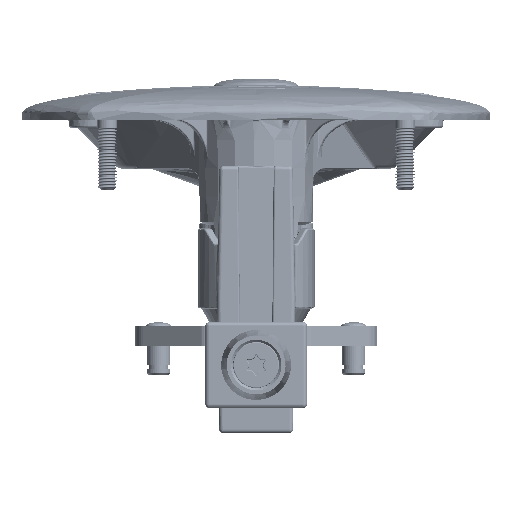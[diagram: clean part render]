
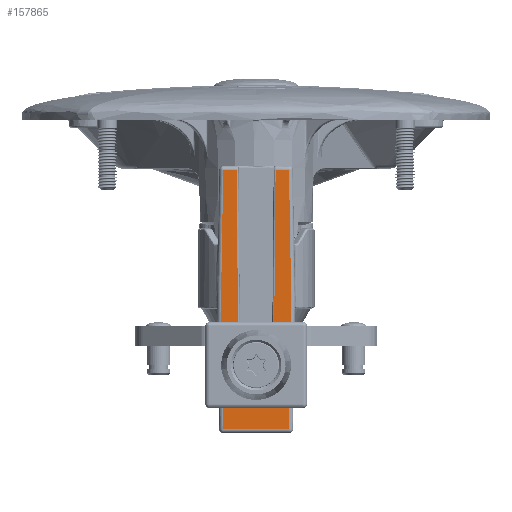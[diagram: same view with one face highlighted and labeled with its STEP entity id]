
A CAD part, left-side view. The second image highlights one B-rep face of the part: STEP entity #157865.
In plain terms, the highlighted planar face has unit normal (-1, 0, 0).
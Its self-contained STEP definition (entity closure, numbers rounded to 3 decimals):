
#16233 = EDGE_LOOP ( 'NONE', ( #221587, #221589, #221591, #221593, #221596, #221598, #221600, #221602, #221604, #221607 ) ) ;
#70361 = EDGE_CURVE ( 'NONE', #285992, #286000, #222878, .T. ) ;
#70405 = EDGE_CURVE ( 'NONE', #286001, #286002, #222885, .T. ) ;
#70408 = EDGE_CURVE ( 'NONE', #286002, #286003, #222890, .T. ) ;
#70412 = EDGE_CURVE ( 'NONE', #285990, #285992, #222895, .T. ) ;
#70416 = EDGE_CURVE ( 'NONE', #285995, #285990, #222898, .T. ) ;
#70419 = EDGE_CURVE ( 'NONE', #286000, #286001, #222901, .T. ) ;
#70424 = EDGE_CURVE ( 'NONE', #286003, #286005, #222904, .T. ) ;
#70427 = EDGE_CURVE ( 'NONE', #286005, #286006, #222907, .T. ) ;
#70431 = EDGE_CURVE ( 'NONE', #286006, #286010, #222910, .T. ) ;
#70435 = EDGE_CURVE ( 'NONE', #286010, #285995, #222914, .T. ) ;
#120228 = AXIS2_PLACEMENT_3D ( 'NONE', #147469, #147496, #147497 ) ;
#145565 = FACE_OUTER_BOUND ( 'NONE', #16233, .T. ) ;
#147469 = CARTESIAN_POINT ( 'NONE',  ( -24., 10., -5.899 ) ) ;
#147486 = PLANE ( 'NONE',  #120228 ) ;
#147496 = DIRECTION ( 'NONE',  ( 1., 0., 0. ) ) ;
#147497 = DIRECTION ( 'NONE',  ( 0., 1., 0. ) ) ;
#157865 = ADVANCED_FACE ( 'NONE', ( #145565 ), #147486, .F. ) ;
#202607 = AXIS2_PLACEMENT_3D ( 'NONE', #215053, #215102, #215105 ) ;
#215053 = CARTESIAN_POINT ( 'NONE',  ( -24., 0., -68.827 ) ) ;
#215102 = DIRECTION ( 'NONE',  ( 1., 0., 0. ) ) ;
#215105 = DIRECTION ( 'NONE',  ( 0., 1., 0. ) ) ;
#221587 = ORIENTED_EDGE ( 'NONE', *, *, #70416, .T. ) ;
#221589 = ORIENTED_EDGE ( 'NONE', *, *, #70412, .T. ) ;
#221591 = ORIENTED_EDGE ( 'NONE', *, *, #70361, .T. ) ;
#221593 = ORIENTED_EDGE ( 'NONE', *, *, #70419, .T. ) ;
#221596 = ORIENTED_EDGE ( 'NONE', *, *, #70405, .T. ) ;
#221598 = ORIENTED_EDGE ( 'NONE', *, *, #70408, .T. ) ;
#221600 = ORIENTED_EDGE ( 'NONE', *, *, #70424, .T. ) ;
#221602 = ORIENTED_EDGE ( 'NONE', *, *, #70427, .T. ) ;
#221604 = ORIENTED_EDGE ( 'NONE', *, *, #70431, .T. ) ;
#221607 = ORIENTED_EDGE ( 'NONE', *, *, #70435, .T. ) ;
#222876 = VECTOR ( 'NONE', #231749, 1000. ) ;
#222878 = CIRCLE ( 'NONE', #202607, 4.502 ) ;
#222885 = LINE ( 'NONE', #231744, #222876 ) ;
#222890 = LINE ( 'NONE', #231758, #222893 ) ;
#222893 = VECTOR ( 'NONE', #231764, 1000. ) ;
#222895 = LINE ( 'NONE', #231774, #222897 ) ;
#222897 = VECTOR ( 'NONE', #231780, 1000. ) ;
#222898 = LINE ( 'NONE', #231788, #222900 ) ;
#222900 = VECTOR ( 'NONE', #231794, 1000. ) ;
#222901 = LINE ( 'NONE', #231804, #222903 ) ;
#222903 = VECTOR ( 'NONE', #231808, 1000. ) ;
#222904 = LINE ( 'NONE', #231817, #222906 ) ;
#222906 = VECTOR ( 'NONE', #231822, 1000. ) ;
#222907 = LINE ( 'NONE', #231832, #222909 ) ;
#222909 = VECTOR ( 'NONE', #231838, 1000. ) ;
#222910 = LINE ( 'NONE', #231848, #222912 ) ;
#222912 = VECTOR ( 'NONE', #231854, 1000. ) ;
#222914 = LINE ( 'NONE', #231861, #222917 ) ;
#222917 = VECTOR ( 'NONE', #231866, 1000. ) ;
#231744 = CARTESIAN_POINT ( 'NONE',  ( -24., 9.398, -12.827 ) ) ;
#231749 = DIRECTION ( 'NONE',  ( 0., 1., 0. ) ) ;
#231758 = CARTESIAN_POINT ( 'NONE',  ( -24., 8.295, -5.929 ) ) ;
#231764 = DIRECTION ( 'NONE',  ( 0., 0.017, -1. ) ) ;
#231774 = CARTESIAN_POINT ( 'NONE',  ( -24., -5.051, -6.031 ) ) ;
#231780 = DIRECTION ( 'NONE',  ( 0., 0.009, -1. ) ) ;
#231788 = CARTESIAN_POINT ( 'NONE',  ( -24., -4.5, -12.827 ) ) ;
#231794 = DIRECTION ( 'NONE',  ( 0., 1., 0. ) ) ;
#231804 = CARTESIAN_POINT ( 'NONE',  ( -24., 5.052, -5.856 ) ) ;
#231808 = DIRECTION ( 'NONE',  ( 0., 0.009, 1. ) ) ;
#231817 = CARTESIAN_POINT ( 'NONE',  ( -24., 9.706, -5.894 ) ) ;
#231822 = DIRECTION ( 'NONE',  ( 0., -0.017, -1. ) ) ;
#231832 = CARTESIAN_POINT ( 'NONE',  ( -24., -9.407, -79.327 ) ) ;
#231838 = DIRECTION ( 'NONE',  ( 0., -1., 0. ) ) ;
#231848 = CARTESIAN_POINT ( 'NONE',  ( -24., -9.7, -6.243 ) ) ;
#231854 = DIRECTION ( 'NONE',  ( 0., -0.017, 1. ) ) ;
#231861 = CARTESIAN_POINT ( 'NONE',  ( -24., -8.289, -5.58 ) ) ;
#231866 = DIRECTION ( 'NONE',  ( 0., 0.017, 1. ) ) ;
#233753 = CARTESIAN_POINT ( 'NONE',  ( -24., -4.991, -12.827 ) ) ;
#233758 = CARTESIAN_POINT ( 'NONE',  ( -24., -4.502, -68.866 ) ) ;
#233767 = CARTESIAN_POINT ( 'NONE',  ( -24., -8.415, -12.827 ) ) ;
#233788 = CARTESIAN_POINT ( 'NONE',  ( -24., 4.502, -68.866 ) ) ;
#233793 = CARTESIAN_POINT ( 'NONE',  ( -24., 4.991, -12.827 ) ) ;
#233797 = CARTESIAN_POINT ( 'NONE',  ( -24., 8.415, -12.827 ) ) ;
#233800 = CARTESIAN_POINT ( 'NONE',  ( -24., 9., -46.327 ) ) ;
#233810 = CARTESIAN_POINT ( 'NONE',  ( -24., 8.424, -79.327 ) ) ;
#233813 = CARTESIAN_POINT ( 'NONE',  ( -24., -8.424, -79.327 ) ) ;
#233827 = CARTESIAN_POINT ( 'NONE',  ( -24., -9., -46.327 ) ) ;
#285990 = VERTEX_POINT ( 'NONE', #233753 ) ;
#285992 = VERTEX_POINT ( 'NONE', #233758 ) ;
#285995 = VERTEX_POINT ( 'NONE', #233767 ) ;
#286000 = VERTEX_POINT ( 'NONE', #233788 ) ;
#286001 = VERTEX_POINT ( 'NONE', #233793 ) ;
#286002 = VERTEX_POINT ( 'NONE', #233797 ) ;
#286003 = VERTEX_POINT ( 'NONE', #233800 ) ;
#286005 = VERTEX_POINT ( 'NONE', #233810 ) ;
#286006 = VERTEX_POINT ( 'NONE', #233813 ) ;
#286010 = VERTEX_POINT ( 'NONE', #233827 ) ;
